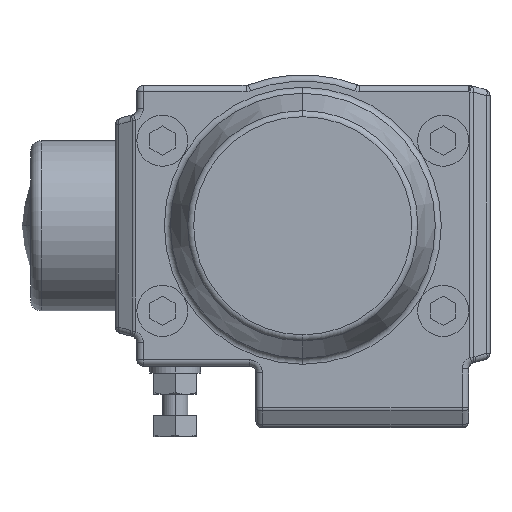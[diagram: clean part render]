
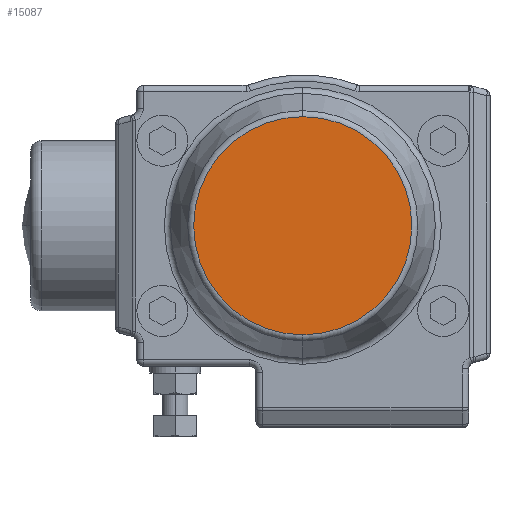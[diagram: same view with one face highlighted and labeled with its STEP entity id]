
A CAD part, left-side view. The second image highlights one B-rep face of the part: STEP entity #15087.
In plain terms, the highlighted planar face has unit normal (-1, 0, 0).
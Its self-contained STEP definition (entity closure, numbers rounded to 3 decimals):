
#2 = ORIENTED_EDGE ( 'NONE', *, *, #5308, .T. ) ;
#610 = FACE_OUTER_BOUND ( 'NONE', #4442, .T. ) ;
#1964 = AXIS2_PLACEMENT_3D ( 'NONE', #10515, #3446, #14245 ) ;
#2052 = CIRCLE ( 'NONE', #6093, 25.645 ) ;
#2286 = VERTEX_POINT ( 'NONE', #6913 ) ;
#3381 = AXIS2_PLACEMENT_3D ( 'NONE', #5802, #8061, #14200 ) ;
#3446 = DIRECTION ( 'NONE',  ( -1., 0., 0. ) ) ;
#4442 = EDGE_LOOP ( 'NONE', ( #14725, #2 ) ) ;
#5308 = EDGE_CURVE ( 'NONE', #2286, #11451, #2052, .T. ) ;
#5647 = PLANE ( 'NONE',  #3381 ) ;
#5802 = CARTESIAN_POINT ( 'NONE',  ( -82.5, 0., 0. ) ) ;
#6093 = AXIS2_PLACEMENT_3D ( 'NONE', #13787, #12565, #6610 ) ;
#6452 = EDGE_CURVE ( 'NONE', #11451, #2286, #13568, .T. ) ;
#6610 = DIRECTION ( 'NONE',  ( 0., 0., 1. ) ) ;
#6913 = CARTESIAN_POINT ( 'NONE',  ( -82.5, 0., -25.645 ) ) ;
#8061 = DIRECTION ( 'NONE',  ( -1., 0., 0. ) ) ;
#10515 = CARTESIAN_POINT ( 'NONE',  ( -82.5, 0., 0. ) ) ;
#11451 = VERTEX_POINT ( 'NONE', #14192 ) ;
#12565 = DIRECTION ( 'NONE',  ( -1., 0., 0. ) ) ;
#13568 = CIRCLE ( 'NONE', #1964, 25.645 ) ;
#13787 = CARTESIAN_POINT ( 'NONE',  ( -82.5, 0., 0. ) ) ;
#14192 = CARTESIAN_POINT ( 'NONE',  ( -82.5, 0., 25.645 ) ) ;
#14200 = DIRECTION ( 'NONE',  ( 0., 0., -1. ) ) ;
#14245 = DIRECTION ( 'NONE',  ( 0., 0., 1. ) ) ;
#14725 = ORIENTED_EDGE ( 'NONE', *, *, #6452, .T. ) ;
#15087 = ADVANCED_FACE ( 'NONE', ( #610 ), #5647, .T. ) ;
